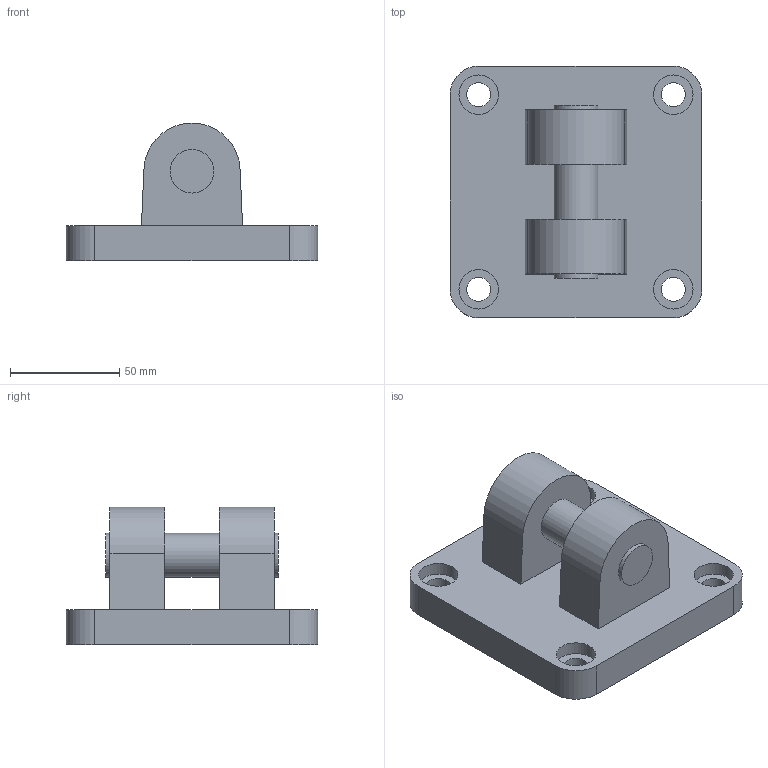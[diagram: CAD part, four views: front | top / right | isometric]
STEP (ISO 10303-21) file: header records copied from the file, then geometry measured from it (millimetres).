
FILE_DESCRIPTION((''),'2;1');
FILE_NAME('K:\A-Roberto\_Inventor\Rev.Librerie\FISSAGGI\1320_Ø_29F\STEP(1320_Ø_29F)\1320_100_29F.stp','2006-07-12T14:13:06',('rivolro1'),(''),'Autodesk Inventor 11','Autodesk Inventor 11','');
FILE_SCHEMA(('AUTOMOTIVE_DESIGN { 1 0 10303 214 1 1 1 1 }'));
Length unit declared in the file: millimetre
Products named in the file (1): 1320_100_29F
Bounding box: 115 x 115 x 63 mm (x, y, z)
Volume: 291036.1 mm3; surface area: 48400.2 mm2
Topology: 1 solids, 1 shells, 39 faces, 84 edges, 56 vertices
Faces by surface type: plane 16, bspline 14, cylinder 9
Full cylindrical faces by diameter (mm): 20 x3
Entity records: 1174 total; most frequent: CARTESIAN_POINT 336, DIRECTION 160, ORIENTED_EDGE 144, EDGE_CURVE 72, EDGE_LOOP 70, AXIS2_PLACEMENT_3D 62, VERTEX_POINT 56, FACE_OUTER_BOUND 39
